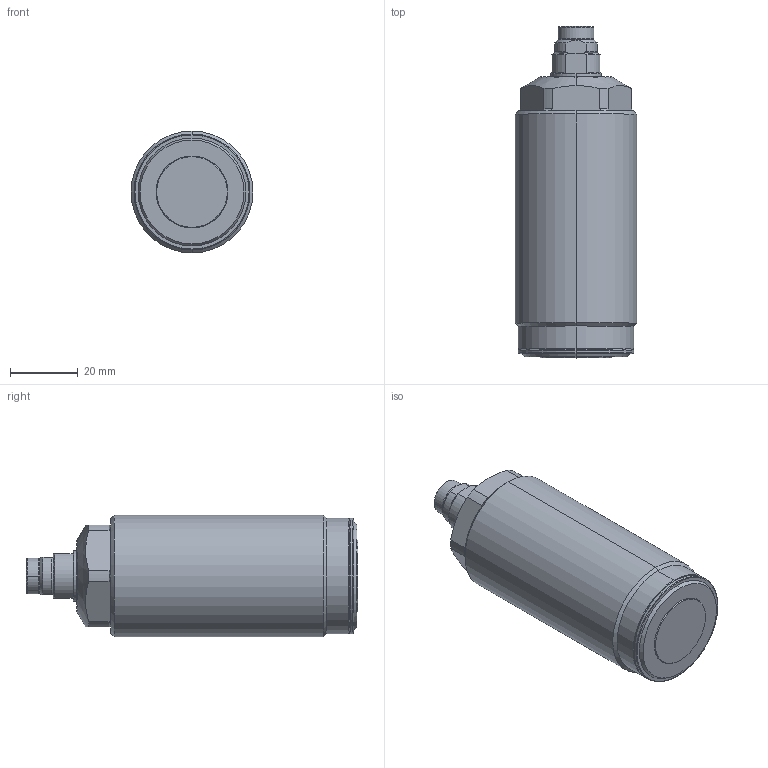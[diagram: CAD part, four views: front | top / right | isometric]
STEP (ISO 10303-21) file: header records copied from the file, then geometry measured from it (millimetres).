
FILE_DESCRIPTION(/* description */ (''),/* implementation_level */ '2;1');
FILE_NAME(/* name */ 'TSC04-QM.stp',/* time_stamp */ '2025-01-14T11:08:03+08:00',/* author */ (''),/* organization */ (''),/* preprocessor_version */ 'ST-DEVELOPER v16.7',/* originating_system */ 'SIEMENS PLM Software NX 12.0',/* authorisation */ '');
FILE_SCHEMA (('AUTOMOTIVE_DESIGN { 1 0 10303 214 3 1 1 1 }'));
Length unit declared in the file: millimetre
Products named in the file (8): XLC-M10_Oring; XLC-M10SP_pin; XLC-M10SP_contactbolt; XLC-M10SP_pad; TSC04-PQ-03; TSC04-PQ-02; XLC-M10_-M; TSC04-Q_stp
Assembly tree (7 placements, depth 3):
  TSC04-Q_stp
    TSC04-PQ-02
    TSC04-PQ-03
    XLC-M10_-M
      XLC-M10SP_pad
      XLC-M10SP_contactbolt
      XLC-M10SP_pin
      XLC-M10_Oring
Bounding box: 36 x 98 x 36 mm (x, y, z)
Volume: 81353.9 mm3; surface area: 14812.6 mm2
Topology: 6 solids, 6 shells, 163 faces, 368 edges, 226 vertices
Faces by surface type: cylinder 52, plane 39, cone 36, torus 30, sphere 6
Entity records: 5182 total; most frequent: CARTESIAN_POINT 1253, DIRECTION 866, ORIENTED_EDGE 736, AXIS2_PLACEMENT_3D 377, EDGE_CURVE 368, VERTEX_POINT 226, CIRCLE 206, EDGE_LOOP 182
